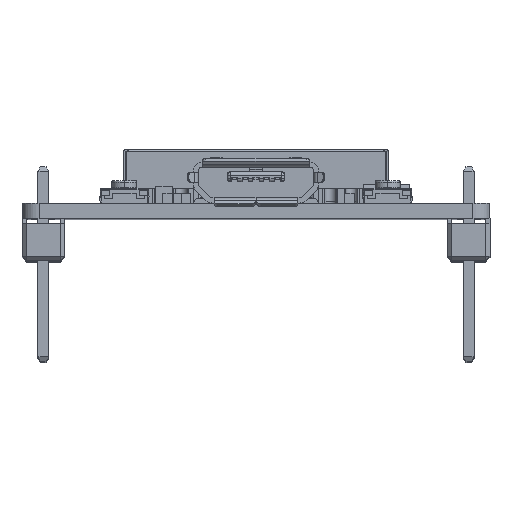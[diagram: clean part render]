
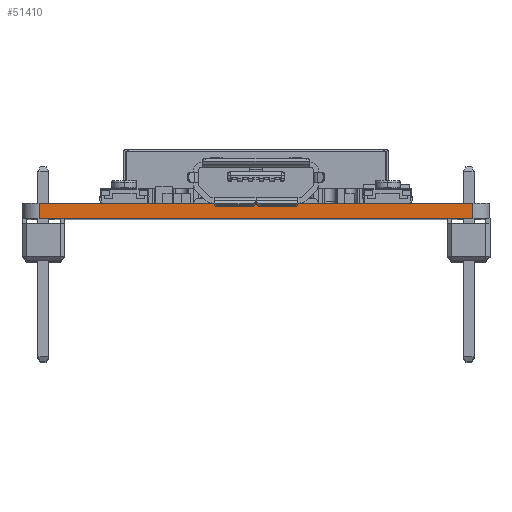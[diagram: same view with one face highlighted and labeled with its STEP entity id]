
A CAD part, top view. The second image highlights one B-rep face of the part: STEP entity #51410.
In plain terms, the highlighted planar face has unit normal (0, 0, 1).
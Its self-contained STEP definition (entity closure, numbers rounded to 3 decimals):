
#5196 = EDGE_CURVE ( 'NONE', #89050, #87112, #27361, .T. ) ;
#12684 = LINE ( 'NONE', #52576, #60796 ) ;
#13200 = DIRECTION ( 'NONE',  ( 0., 1., 0. ) ) ;
#14254 = ORIENTED_EDGE ( 'NONE', *, *, #85194, .T. ) ;
#14613 = CARTESIAN_POINT ( 'NONE',  ( -12.95, -0.9, 24.1 ) ) ;
#18094 = CARTESIAN_POINT ( 'NONE',  ( -12.95, -0.9, 24.1 ) ) ;
#23678 = AXIS2_PLACEMENT_3D ( 'NONE', #104598, #74128, #95006 ) ;
#26486 = ORIENTED_EDGE ( 'NONE', *, *, #5196, .F. ) ;
#27361 = LINE ( 'NONE', #104016, #114583 ) ;
#43473 = EDGE_LOOP ( 'NONE', ( #123452, #26486, #14254, #74706 ) ) ;
#43695 = DIRECTION ( 'NONE',  ( 1., 0., 0. ) ) ;
#49992 = VERTEX_POINT ( 'NONE', #121287 ) ;
#51126 = VECTOR ( 'NONE', #13200, 1000. ) ;
#51410 = ADVANCED_FACE ( 'NONE', ( #122419 ), #114130, .T. ) ;
#52576 = CARTESIAN_POINT ( 'NONE',  ( -12.95, 0., 24.1 ) ) ;
#53235 = DIRECTION ( 'NONE',  ( 1., 0., 0. ) ) ;
#60796 = VECTOR ( 'NONE', #43695, 1000. ) ;
#65346 = DIRECTION ( 'NONE',  ( 0., 1., 0. ) ) ;
#74128 = DIRECTION ( 'NONE',  ( 0., 0., 1. ) ) ;
#74706 = ORIENTED_EDGE ( 'NONE', *, *, #124083, .T. ) ;
#81274 = VERTEX_POINT ( 'NONE', #104709 ) ;
#85194 = EDGE_CURVE ( 'NONE', #89050, #49992, #118627, .T. ) ;
#86127 = VECTOR ( 'NONE', #53235, 1000. ) ;
#87112 = VERTEX_POINT ( 'NONE', #121769 ) ;
#89050 = VERTEX_POINT ( 'NONE', #18094 ) ;
#95006 = DIRECTION ( 'NONE',  ( 1., 0., 0. ) ) ;
#100657 = LINE ( 'NONE', #119125, #51126 ) ;
#104016 = CARTESIAN_POINT ( 'NONE',  ( -12.95, -0.9, 24.1 ) ) ;
#104598 = CARTESIAN_POINT ( 'NONE',  ( -12.95, -0.9, 24.1 ) ) ;
#104709 = CARTESIAN_POINT ( 'NONE',  ( 12.95, 0., 24.1 ) ) ;
#107128 = EDGE_CURVE ( 'NONE', #87112, #81274, #12684, .T. ) ;
#114130 = PLANE ( 'NONE',  #23678 ) ;
#114583 = VECTOR ( 'NONE', #65346, 1000. ) ;
#118627 = LINE ( 'NONE', #14613, #86127 ) ;
#119125 = CARTESIAN_POINT ( 'NONE',  ( 12.95, -0.9, 24.1 ) ) ;
#121287 = CARTESIAN_POINT ( 'NONE',  ( 12.95, -0.9, 24.1 ) ) ;
#121769 = CARTESIAN_POINT ( 'NONE',  ( -12.95, 0., 24.1 ) ) ;
#122419 = FACE_OUTER_BOUND ( 'NONE', #43473, .T. ) ;
#123452 = ORIENTED_EDGE ( 'NONE', *, *, #107128, .F. ) ;
#124083 = EDGE_CURVE ( 'NONE', #49992, #81274, #100657, .T. ) ;
